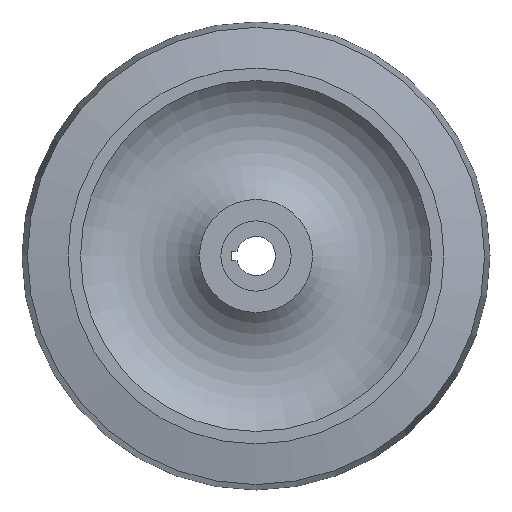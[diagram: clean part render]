
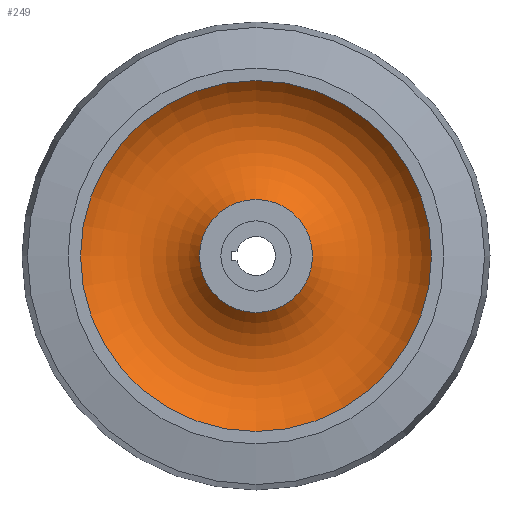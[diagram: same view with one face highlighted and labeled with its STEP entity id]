
A CAD part, left-side view. The second image highlights one B-rep face of the part: STEP entity #249.
In plain terms, the highlighted toroidal (fillet/blend) face has major radius 37.781 mm and minor radius 25.865 mm.
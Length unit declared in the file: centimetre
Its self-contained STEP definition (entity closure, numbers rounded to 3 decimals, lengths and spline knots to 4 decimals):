
#42=TOROIDAL_SURFACE('',#276,3.7781,2.5865);
#51=CIRCLE('',#275,1.8415);
#52=CIRCLE('',#277,5.7147);
#72=VERTEX_POINT('',#398);
#73=VERTEX_POINT('',#401);
#117=EDGE_CURVE('',#72,#72,#51,.T.);
#118=EDGE_CURVE('',#73,#73,#52,.T.);
#160=ORIENTED_EDGE('',*,*,#118,.F.);
#161=ORIENTED_EDGE('',*,*,#117,.T.);
#192=EDGE_LOOP('',(#160));
#193=EDGE_LOOP('',(#161));
#224=FACE_BOUND('',#192,.T.);
#225=FACE_BOUND('',#193,.T.);
#249=ADVANCED_FACE('',(#224,#225),#42,.F.);
#275=AXIS2_PLACEMENT_3D('',#397,#329,#330);
#276=AXIS2_PLACEMENT_3D('',#399,#331,$);
#277=AXIS2_PLACEMENT_3D('',#400,#332,#333);
#329=DIRECTION('',(1.,0.,0.));
#330=DIRECTION('',(0.,1.842,0.));
#331=DIRECTION('',(1.,0.,0.));
#332=DIRECTION('',(1.,0.,0.));
#333=DIRECTION('',(0.,5.715,0.));
#397=CARTESIAN_POINT('',(-1.5875,0.,0.));
#398=CARTESIAN_POINT('',(-1.5875,1.8415,0.));
#399=CARTESIAN_POINT('',(-3.302,0.,0.));
#400=CARTESIAN_POINT('',(-1.5875,0.,0.));
#401=CARTESIAN_POINT('',(-1.5875,5.7147,0.));
